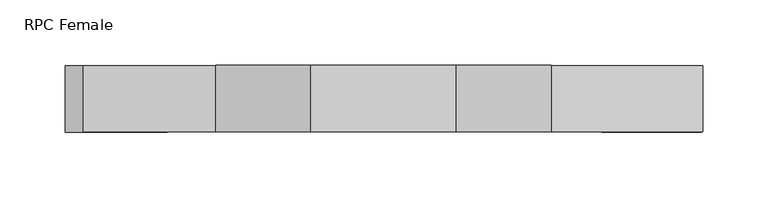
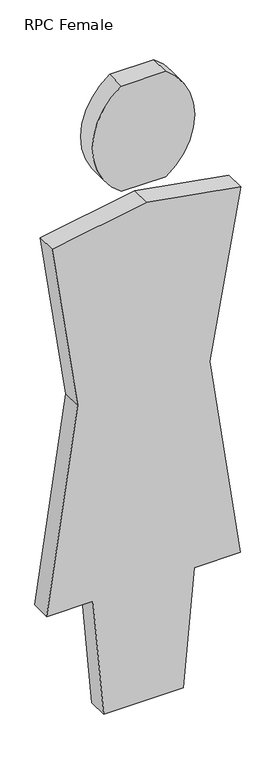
"""IFC4 building model written with IfcOpenShell, lengths in millimetres: proxy geometry, RPC Female : Tina."""

from ifc_helpers import new_model, si_unit, point, frame, frame_2d, origin, place, context, project, spatial, polyline, circle_curve, trimmed, segment, composite_curve, outline, extrude, source, transform, mapped, element, save


def rpc_female_56938bd4(model_context):
    return source(origin(), model_context, "Body", "SweptSolid", [
        extrude(outline(polyline([(309.1053377, -243.0632617), (309.1053377, -127.0), (0.0, -99.9567871), (0.0, 99.9567871), (309.1053377, 127.0), (309.1053377, 243.0632617), (842.5053377, 166.9252715), (1279.1708006, 243.9211741), (1320.8, 7.8302523), (1278.9590152, -229.4617641), (842.5053377, -165.4216584), (309.1053377, -243.0632617)])), frame((0.0, -25.4, 0.0), z_axis=(0.0, 1.0, 0.0), x_axis=(0.0, 0.0, 1.0)), (0.0, 0.0, 1.0), 50.777193),
        extrude(outline(composite_curve([segment(trimmed(circle_curve(frame_2d((1511.3, -42.7250777)), 170.9002356), [point((1371.6, 55.7167859))], [point((1651.0, 55.7167859))], False, "CARTESIAN"), True, "CONTINUOUS"), segment(polyline([(1651.0, 55.7167859), (1651.0, -55.7167859)]), True, "CONTINUOUS"), segment(trimmed(circle_curve(frame_2d((1511.3, 42.7250777)), 170.9002356), [point((1651.0, -55.7167859))], [point((1371.6, -55.7167859))], False, "CARTESIAN"), True, "CONTINUOUS"), segment(polyline([(1371.6, -55.7167859), (1371.6, 55.7167859)]), True, "CONTINUOUS")], self_intersect=False)), frame((0.0, -25.4, 0.0), z_axis=(0.0, 1.0, 0.0), x_axis=(0.0, 0.0, 1.0)), (0.0, 0.0, 1.0), 50.777193),
    ])


if __name__ == "__main__":
    model = new_model("IFC4")
    model_context = context("Model", 3, world=origin())
    ifc_project = project(units=[si_unit("LENGTHUNIT", "METRE", prefix="MILLI")], contexts=[model_context])
    site = spatial("IfcSite", under=ifc_project)
    building = spatial("IfcBuilding", under=site)
    placement = place(None, origin())
    rpc_female_shape = rpc_female_56938bd4(model_context)
    element("IfcBuildingElementProxy", 1, Name="RPC Female : Tina", ObjectType="RPC Female : Tina", at=placement, inside=building, context=model_context, shape_type="MappedRepresentation", body=[
        mapped(rpc_female_shape, transform((0.0, 0.0, 0.0), x_axis=(1.0, 0.0, 0.0), y_axis=(0.0, 1.0, 0.0), z_axis=(0.0, 0.0, 1.0))),
    ])
    save(model, "model.ifc")
